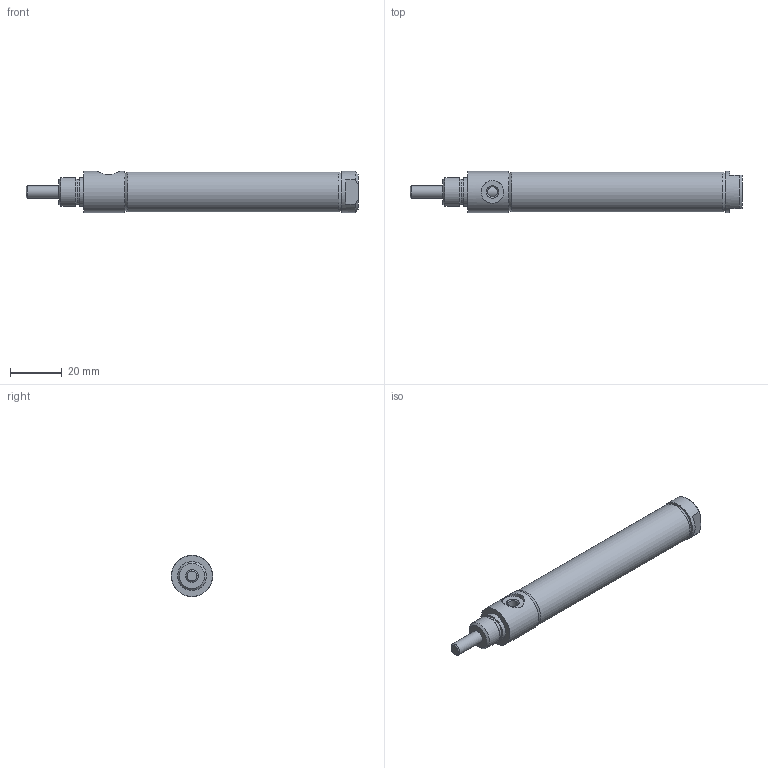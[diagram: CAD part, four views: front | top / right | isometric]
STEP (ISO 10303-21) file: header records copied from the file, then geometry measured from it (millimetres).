
FILE_DESCRIPTION( ( 'STEP AP214' ), '1' );
FILE_NAME( 'p:/temp/worker_394/temp/exporttempdir_4824_56_kKezS/format_0/0563D01-02A-03.stp', '2020-05-07T13:35:43', ( 'License CC BY-ND 4.0' ), ( 'CADENAS' ), ' ', 'PARTsolutions', ' ' );
FILE_SCHEMA( ( 'AUTOMOTIVE_DESIGN { 1 0 10303 214 1 1 1 1 }' ) );
Length unit declared in the file: inch
Products named in the file (3): 0563D01-02A-03; _0563D01-02A-030b; _0563D01-02A-030r
Assembly tree (2 placements, depth 2):
  0563D01-02A-03
    _0563D01-02A-030b
    _0563D01-02A-030r
Bounding box: 127.79 x 15.88 x 15.88 mm (x, y, z)
Volume: 13406.2 mm3; surface area: 13433.6 mm2
Topology: 2 solids, 2 shells, 42 faces, 77 edges, 49 vertices
Faces by surface type: plane 18, cylinder 15, cone 9
Full cylindrical faces by diameter (mm): 3.967 x2, 4.775 x3, 4.826 x1, 8.738 x1, 9.601 x1, 11.1 x1, 11.112 x1, 14.287 x2, 15.392 x1, 15.875 x2
Entity records: 1446 total; most frequent: CARTESIAN_POINT 289, DIRECTION 176, ORIENTED_EDGE 106, AXIS2_PLACEMENT_3D 84, EDGE_LOOP 78, FACE_OUTER_BOUND 57, EDGE_CURVE 53, VERTEX_POINT 47
